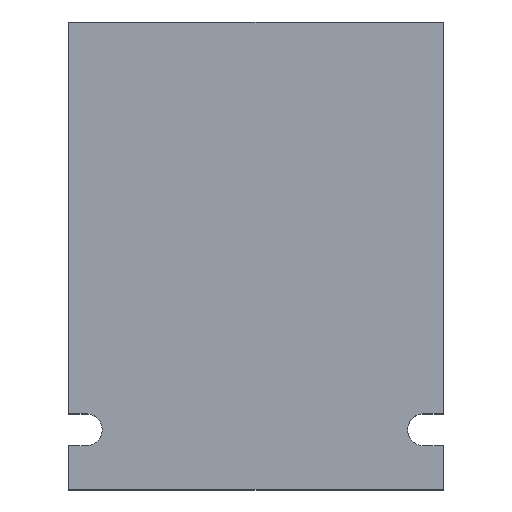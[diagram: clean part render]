
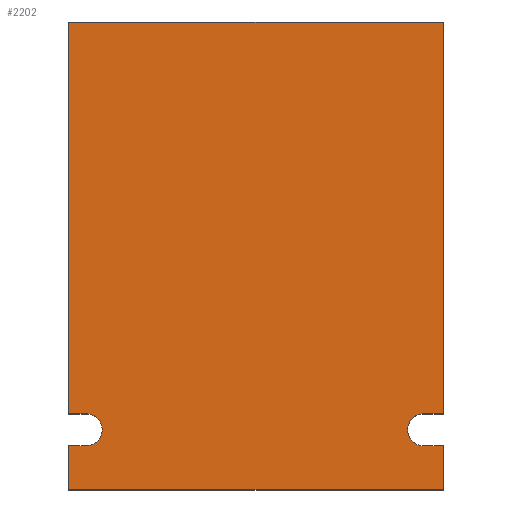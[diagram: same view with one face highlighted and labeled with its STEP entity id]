
A CAD part, top view. The second image highlights one B-rep face of the part: STEP entity #2202.
In plain terms, the highlighted planar face has unit normal (0, 0, 1).
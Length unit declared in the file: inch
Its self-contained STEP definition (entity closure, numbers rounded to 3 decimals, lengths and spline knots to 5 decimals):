
#13=DIRECTION('',(-1.,0.,0.));
#14=VECTOR('',#13,4.024);
#15=CARTESIAN_POINT('',(4.024,0.,0.));
#16=LINE('',#15,#14);
#31=DIRECTION('',(0.,-1.,0.));
#32=VECTOR('',#31,0.472);
#33=CARTESIAN_POINT('',(0.,-4.552,0.));
#34=LINE('',#33,#32);
#39=DIRECTION('',(0.,-1.,0.));
#40=VECTOR('',#39,4.208);
#41=CARTESIAN_POINT('',(0.,0.,0.));
#42=LINE('',#41,#40);
#101=DIRECTION('',(-1.,0.,0.));
#102=VECTOR('',#101,4.024);
#103=CARTESIAN_POINT('',(4.024,-5.024,0.));
#104=LINE('',#103,#102);
#123=DIRECTION('',(1.,0.,0.));
#124=VECTOR('',#123,0.188);
#125=CARTESIAN_POINT('',(0.,-4.552,0.));
#126=LINE('',#125,#124);
#127=CARTESIAN_POINT('',(0.188,-4.38,0.));
#128=DIRECTION('',(0.,0.,1.));
#129=DIRECTION('',(0.,-1.,0.));
#130=AXIS2_PLACEMENT_3D('',#127,#128,#129);
#132=DIRECTION('',(1.,0.,0.));
#133=VECTOR('',#132,0.188);
#134=CARTESIAN_POINT('',(0.,-4.208,0.));
#135=LINE('',#134,#133);
#136=DIRECTION('',(0.,-1.,0.));
#137=VECTOR('',#136,4.208);
#138=CARTESIAN_POINT('',(4.024,0.,0.));
#139=LINE('',#138,#137);
#140=DIRECTION('',(-1.,0.,0.));
#141=VECTOR('',#140,0.211);
#142=CARTESIAN_POINT('',(4.024,-4.208,0.));
#143=LINE('',#142,#141);
#144=CARTESIAN_POINT('',(3.813,-4.38,0.));
#145=DIRECTION('',(0.,0.,1.));
#146=DIRECTION('',(0.,1.,0.));
#147=AXIS2_PLACEMENT_3D('',#144,#145,#146);
#149=DIRECTION('',(-1.,0.,0.));
#150=VECTOR('',#149,0.211);
#151=CARTESIAN_POINT('',(4.024,-4.552,0.));
#152=LINE('',#151,#150);
#153=DIRECTION('',(0.,-1.,0.));
#154=VECTOR('',#153,0.472);
#155=CARTESIAN_POINT('',(4.024,-4.552,0.));
#156=LINE('',#155,#154);
#1665=CARTESIAN_POINT('',(0.,0.,0.));
#1667=VERTEX_POINT('',#1665);
#1671=CARTESIAN_POINT('',(4.024,0.,0.));
#1672=VERTEX_POINT('',#1671);
#1673=CARTESIAN_POINT('',(0.,-5.024,0.));
#1675=VERTEX_POINT('',#1673);
#1679=CARTESIAN_POINT('',(4.024,-5.024,0.));
#1680=VERTEX_POINT('',#1679);
#1749=CARTESIAN_POINT('',(0.,-4.552,0.));
#1751=VERTEX_POINT('',#1749);
#1753=CARTESIAN_POINT('',(0.,-4.208,0.));
#1755=VERTEX_POINT('',#1753);
#1769=CARTESIAN_POINT('',(4.024,-4.208,0.));
#1770=VERTEX_POINT('',#1769);
#1771=CARTESIAN_POINT('',(4.024,-4.552,0.));
#1772=VERTEX_POINT('',#1771);
#1773=CARTESIAN_POINT('',(0.188,-4.552,0.));
#1774=VERTEX_POINT('',#1773);
#1775=CARTESIAN_POINT('',(0.188,-4.208,0.));
#1776=VERTEX_POINT('',#1775);
#1777=CARTESIAN_POINT('',(3.813,-4.208,0.));
#1778=VERTEX_POINT('',#1777);
#1779=CARTESIAN_POINT('',(3.813,-4.552,0.));
#1780=VERTEX_POINT('',#1779);
#2176=CARTESIAN_POINT('',(4.024,0.,0.));
#2177=DIRECTION('',(0.,0.,1.));
#2178=DIRECTION('',(-1.,0.,0.));
#2179=AXIS2_PLACEMENT_3D('',#2176,#2177,#2178);
#2180=PLANE('',#2179);
#2181=ORIENTED_EDGE('',*,*,#2123,.T.);
#2183=ORIENTED_EDGE('',*,*,#2182,.T.);
#2185=ORIENTED_EDGE('',*,*,#2184,.F.);
#2186=ORIENTED_EDGE('',*,*,#2096,.F.);
#2187=ORIENTED_EDGE('',*,*,#2059,.F.);
#2189=ORIENTED_EDGE('',*,*,#2188,.T.);
#2191=ORIENTED_EDGE('',*,*,#2190,.T.);
#2193=ORIENTED_EDGE('',*,*,#2192,.T.);
#2195=ORIENTED_EDGE('',*,*,#2194,.F.);
#2197=ORIENTED_EDGE('',*,*,#2196,.T.);
#2198=ORIENTED_EDGE('',*,*,#2162,.T.);
#2199=ORIENTED_EDGE('',*,*,#2077,.F.);
#2200=EDGE_LOOP('',(#2181,#2183,#2185,#2186,#2187,#2189,#2191,#2193,#2195,#2197,
#2198,#2199));
#2201=FACE_OUTER_BOUND('',#2200,.F.);
#2202=ADVANCED_FACE('',(#2201),#2180,.T.);
#131=CIRCLE('',#130,0.172);
#148=CIRCLE('',#147,0.172);
#2059=EDGE_CURVE('',#1672,#1667,#16,.T.);
#2077=EDGE_CURVE('',#1751,#1675,#34,.T.);
#2096=EDGE_CURVE('',#1667,#1755,#42,.T.);
#2123=EDGE_CURVE('',#1751,#1774,#126,.T.);
#2162=EDGE_CURVE('',#1680,#1675,#104,.T.);
#2182=EDGE_CURVE('',#1774,#1776,#131,.T.);
#2184=EDGE_CURVE('',#1755,#1776,#135,.T.);
#2188=EDGE_CURVE('',#1672,#1770,#139,.T.);
#2190=EDGE_CURVE('',#1770,#1778,#143,.T.);
#2192=EDGE_CURVE('',#1778,#1780,#148,.T.);
#2194=EDGE_CURVE('',#1772,#1780,#152,.T.);
#2196=EDGE_CURVE('',#1772,#1680,#156,.T.);
